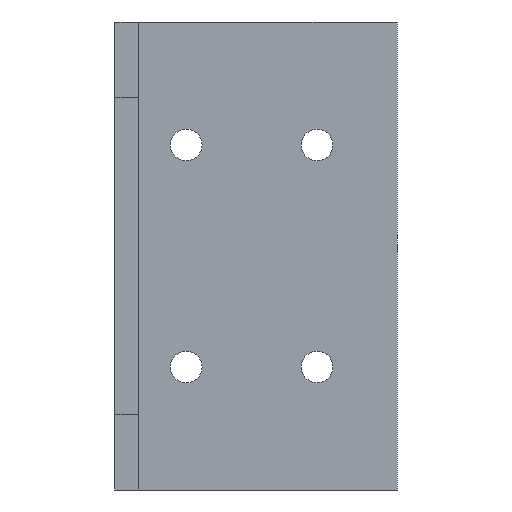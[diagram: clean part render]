
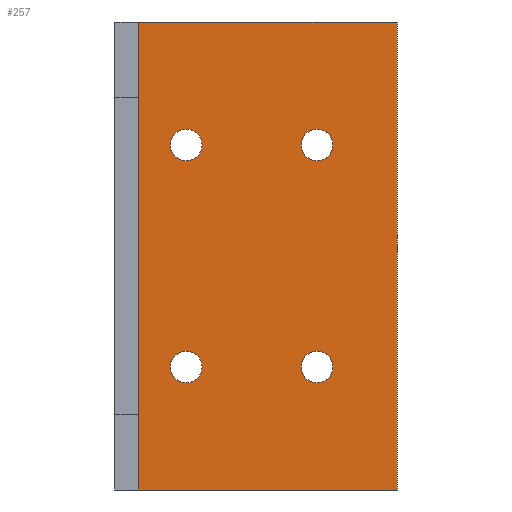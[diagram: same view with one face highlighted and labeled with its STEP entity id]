
A CAD part, left-side view. The second image highlights one B-rep face of the part: STEP entity #257.
In plain terms, the highlighted planar face has unit normal (-1, 0, 0).
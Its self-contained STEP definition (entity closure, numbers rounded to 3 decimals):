
#2 = ORIENTED_EDGE ( 'NONE', *, *, #201, .F. ) ;
#18 = VECTOR ( 'NONE', #566, 1000. ) ;
#29 = FACE_BOUND ( 'NONE', #866, .T. ) ;
#36 = ORIENTED_EDGE ( 'NONE', *, *, #287, .T. ) ;
#48 = DIRECTION ( 'NONE',  ( 0., 0., 1. ) ) ;
#52 = VECTOR ( 'NONE', #370, 1000. ) ;
#56 = ORIENTED_EDGE ( 'NONE', *, *, #715, .F. ) ;
#74 = CARTESIAN_POINT ( 'NONE',  ( 43., 10.1, 43.5 ) ) ;
#78 = CARTESIAN_POINT ( 'NONE',  ( 43., 32.6, 0. ) ) ;
#84 = ORIENTED_EDGE ( 'NONE', *, *, #237, .F. ) ;
#89 = CARTESIAN_POINT ( 'NONE',  ( 43., 10.1, 15.5 ) ) ;
#100 = CARTESIAN_POINT ( 'NONE',  ( 43., 26.6, 43.5 ) ) ;
#102 = CARTESIAN_POINT ( 'NONE',  ( 43., 26.6, 45.5 ) ) ;
#109 = VERTEX_POINT ( 'NONE', #920 ) ;
#119 = DIRECTION ( 'NONE',  ( 1., 0., 0. ) ) ;
#121 = ORIENTED_EDGE ( 'NONE', *, *, #341, .F. ) ;
#129 = AXIS2_PLACEMENT_3D ( 'NONE', #759, #454, #676 ) ;
#151 = CARTESIAN_POINT ( 'NONE',  ( 43., 0., 0. ) ) ;
#166 = CARTESIAN_POINT ( 'NONE',  ( 43., 32.6, 0. ) ) ;
#175 = VECTOR ( 'NONE', #226, 1000. ) ;
#176 = VERTEX_POINT ( 'NONE', #704 ) ;
#191 = DIRECTION ( 'NONE',  ( -1., 0., 0. ) ) ;
#199 = AXIS2_PLACEMENT_3D ( 'NONE', #646, #656, #948 ) ;
#200 = VERTEX_POINT ( 'NONE', #410 ) ;
#201 = EDGE_CURVE ( 'NONE', #921, #204, #640, .T. ) ;
#204 = VERTEX_POINT ( 'NONE', #871 ) ;
#208 = VERTEX_POINT ( 'NONE', #952 ) ;
#212 = VECTOR ( 'NONE', #681, 1000. ) ;
#221 = LINE ( 'NONE', #151, #212 ) ;
#226 = DIRECTION ( 'NONE',  ( 0., 0., 1. ) ) ;
#237 = EDGE_CURVE ( 'NONE', #208, #354, #582, .T. ) ;
#238 = PLANE ( 'NONE',  #396 ) ;
#251 = CARTESIAN_POINT ( 'NONE',  ( 43., 32.6, 59. ) ) ;
#252 = FACE_BOUND ( 'NONE', #610, .T. ) ;
#255 = ORIENTED_EDGE ( 'NONE', *, *, #574, .F. ) ;
#257 = ADVANCED_FACE ( 'NONE', ( #493, #709, #29, #252, #631 ), #238, .F. ) ;
#276 = EDGE_CURVE ( 'NONE', #204, #921, #343, .T. ) ;
#277 = ORIENTED_EDGE ( 'NONE', *, *, #890, .F. ) ;
#284 = VERTEX_POINT ( 'NONE', #292 ) ;
#287 = EDGE_CURVE ( 'NONE', #585, #200, #835, .T. ) ;
#289 = CARTESIAN_POINT ( 'NONE',  ( 43., 32.6, 0. ) ) ;
#292 = CARTESIAN_POINT ( 'NONE',  ( 43., 10.1, 45.5 ) ) ;
#301 = AXIS2_PLACEMENT_3D ( 'NONE', #89, #589, #48 ) ;
#305 = EDGE_LOOP ( 'NONE', ( #781, #84, #56, #36 ) ) ;
#324 = CARTESIAN_POINT ( 'NONE',  ( 43., 26.6, 41.5 ) ) ;
#341 = EDGE_CURVE ( 'NONE', #966, #176, #427, .T. ) ;
#343 = CIRCLE ( 'NONE', #909, 2. ) ;
#347 = CARTESIAN_POINT ( 'NONE',  ( 43., 10.1, 13.5 ) ) ;
#354 = VERTEX_POINT ( 'NONE', #943 ) ;
#369 = ORIENTED_EDGE ( 'NONE', *, *, #813, .F. ) ;
#370 = DIRECTION ( 'NONE',  ( 0., -1., 0. ) ) ;
#378 = CIRCLE ( 'NONE', #506, 2. ) ;
#396 = AXIS2_PLACEMENT_3D ( 'NONE', #488, #119, #552 ) ;
#398 = CIRCLE ( 'NONE', #959, 2. ) ;
#405 = DIRECTION ( 'NONE',  ( -1., 0., 0. ) ) ;
#410 = CARTESIAN_POINT ( 'NONE',  ( 43., 0., 0. ) ) ;
#427 = CIRCLE ( 'NONE', #301, 2. ) ;
#431 = VERTEX_POINT ( 'NONE', #102 ) ;
#433 = DIRECTION ( 'NONE',  ( 0., 0., 1. ) ) ;
#452 = EDGE_CURVE ( 'NONE', #431, #461, #398, .T. ) ;
#454 = DIRECTION ( 'NONE',  ( -1., 0., 0. ) ) ;
#461 = VERTEX_POINT ( 'NONE', #324 ) ;
#470 = DIRECTION ( 'NONE',  ( -1., 0., 0. ) ) ;
#476 = CIRCLE ( 'NONE', #724, 2. ) ;
#478 = LINE ( 'NONE', #166, #175 ) ;
#485 = EDGE_LOOP ( 'NONE', ( #514, #369 ) ) ;
#488 = CARTESIAN_POINT ( 'NONE',  ( 43., 0., 0. ) ) ;
#493 = FACE_BOUND ( 'NONE', #485, .T. ) ;
#506 = AXIS2_PLACEMENT_3D ( 'NONE', #74, #520, #433 ) ;
#514 = ORIENTED_EDGE ( 'NONE', *, *, #452, .F. ) ;
#518 = CIRCLE ( 'NONE', #129, 2. ) ;
#520 = DIRECTION ( 'NONE',  ( -1., 0., 0. ) ) ;
#552 = DIRECTION ( 'NONE',  ( 0., 0., -1. ) ) ;
#556 = EDGE_CURVE ( 'NONE', #200, #354, #221, .T. ) ;
#566 = DIRECTION ( 'NONE',  ( 0., -1., 0. ) ) ;
#574 = EDGE_CURVE ( 'NONE', #109, #284, #378, .T. ) ;
#582 = LINE ( 'NONE', #251, #18 ) ;
#583 = DIRECTION ( 'NONE',  ( -1., 0., 0. ) ) ;
#585 = VERTEX_POINT ( 'NONE', #289 ) ;
#589 = DIRECTION ( 'NONE',  ( -1., 0., 0. ) ) ;
#592 = AXIS2_PLACEMENT_3D ( 'NONE', #100, #405, #922 ) ;
#610 = EDGE_LOOP ( 'NONE', ( #841, #2 ) ) ;
#617 = EDGE_CURVE ( 'NONE', #284, #109, #518, .T. ) ;
#629 = CARTESIAN_POINT ( 'NONE',  ( 43., 26.6, 43.5 ) ) ;
#631 = FACE_OUTER_BOUND ( 'NONE', #305, .T. ) ;
#640 = CIRCLE ( 'NONE', #199, 2. ) ;
#646 = CARTESIAN_POINT ( 'NONE',  ( 43., 26.6, 15.5 ) ) ;
#656 = DIRECTION ( 'NONE',  ( -1., 0., 0. ) ) ;
#664 = ORIENTED_EDGE ( 'NONE', *, *, #617, .F. ) ;
#676 = DIRECTION ( 'NONE',  ( 0., 0., 1. ) ) ;
#681 = DIRECTION ( 'NONE',  ( 0., 0., 1. ) ) ;
#704 = CARTESIAN_POINT ( 'NONE',  ( 43., 10.1, 17.5 ) ) ;
#709 = FACE_BOUND ( 'NONE', #978, .T. ) ;
#715 = EDGE_CURVE ( 'NONE', #585, #208, #478, .T. ) ;
#724 = AXIS2_PLACEMENT_3D ( 'NONE', #878, #191, #732 ) ;
#732 = DIRECTION ( 'NONE',  ( 0., 0., 1. ) ) ;
#734 = CIRCLE ( 'NONE', #592, 2. ) ;
#738 = CARTESIAN_POINT ( 'NONE',  ( 43., 26.6, 15.5 ) ) ;
#759 = CARTESIAN_POINT ( 'NONE',  ( 43., 10.1, 43.5 ) ) ;
#781 = ORIENTED_EDGE ( 'NONE', *, *, #556, .T. ) ;
#813 = EDGE_CURVE ( 'NONE', #461, #431, #734, .T. ) ;
#835 = LINE ( 'NONE', #78, #52 ) ;
#841 = ORIENTED_EDGE ( 'NONE', *, *, #276, .F. ) ;
#866 = EDGE_LOOP ( 'NONE', ( #664, #255 ) ) ;
#871 = CARTESIAN_POINT ( 'NONE',  ( 43., 26.6, 17.5 ) ) ;
#878 = CARTESIAN_POINT ( 'NONE',  ( 43., 10.1, 15.5 ) ) ;
#882 = DIRECTION ( 'NONE',  ( 0., 0., 1. ) ) ;
#890 = EDGE_CURVE ( 'NONE', #176, #966, #476, .T. ) ;
#909 = AXIS2_PLACEMENT_3D ( 'NONE', #738, #583, #882 ) ;
#920 = CARTESIAN_POINT ( 'NONE',  ( 43., 10.1, 41.5 ) ) ;
#921 = VERTEX_POINT ( 'NONE', #961 ) ;
#922 = DIRECTION ( 'NONE',  ( 0., 0., 1. ) ) ;
#932 = DIRECTION ( 'NONE',  ( 0., 0., 1. ) ) ;
#943 = CARTESIAN_POINT ( 'NONE',  ( 43., 0., 59. ) ) ;
#948 = DIRECTION ( 'NONE',  ( 0., 0., 1. ) ) ;
#952 = CARTESIAN_POINT ( 'NONE',  ( 43., 32.6, 59. ) ) ;
#959 = AXIS2_PLACEMENT_3D ( 'NONE', #629, #470, #932 ) ;
#961 = CARTESIAN_POINT ( 'NONE',  ( 43., 26.6, 13.5 ) ) ;
#966 = VERTEX_POINT ( 'NONE', #347 ) ;
#978 = EDGE_LOOP ( 'NONE', ( #277, #121 ) ) ;
